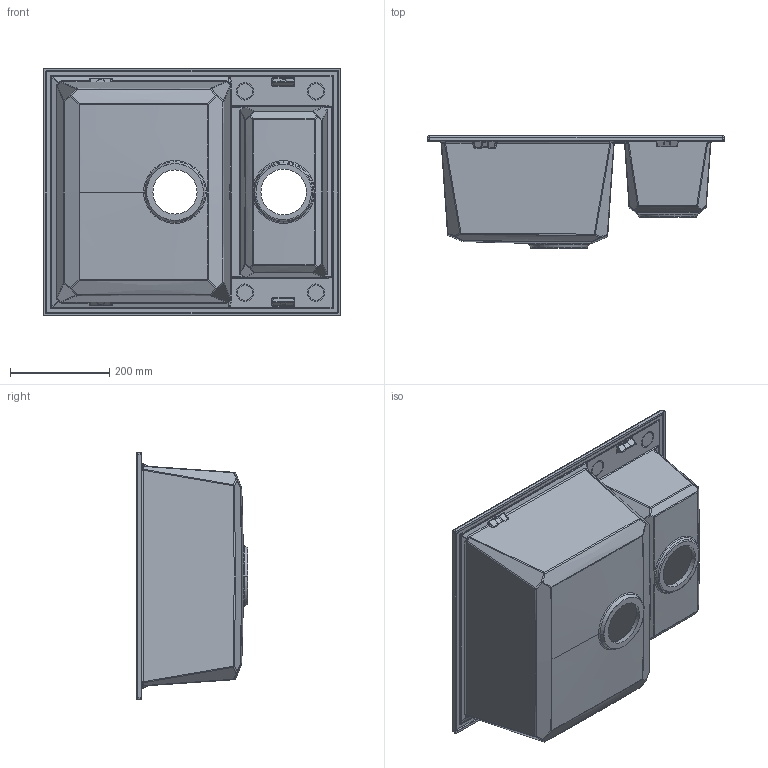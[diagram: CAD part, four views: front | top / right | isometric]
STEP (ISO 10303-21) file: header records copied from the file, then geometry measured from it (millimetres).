
FILE_DESCRIPTION (( 'STEP AP203' ), '1' );
FILE_NAME ('Easy 150.STEP', '2018-10-10T14:47:45', ( '' ), ( '' ), 'SwSTEP 2.0', 'SolidWorks 2013', '' );
FILE_SCHEMA (( 'CONFIG_CONTROL_DESIGN' ));
Length unit declared in the file: millimetre
Products named in the file (1): Easy 150
Bounding box: 600 x 225.74 x 500 mm (x, y, z)
Volume: 5450631 mm3; surface area: 1369406.2 mm2
Topology: 1 solids, 1 shells, 747 faces, 1736 edges, 938 vertices
Faces by surface type: bspline 424, cylinder 216, plane 89, cone 18
Entity records: 37279 total; most frequent: CARTESIAN_POINT 23783, ORIENTED_EDGE 3342, DIRECTION 2013, EDGE_CURVE 1671, VERTEX_POINT 938, AXIS2_PLACEMENT_3D 782, EDGE_LOOP 765, ADVANCED_FACE 747
